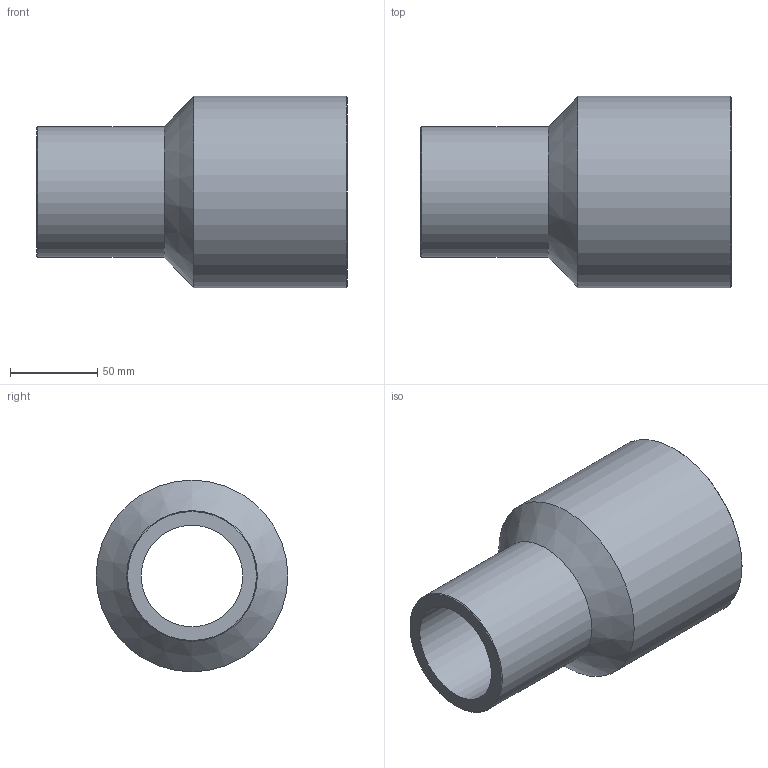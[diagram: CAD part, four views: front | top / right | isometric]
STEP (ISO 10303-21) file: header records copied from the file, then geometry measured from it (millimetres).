
FILE_DESCRIPTION(/* description */ ('Unknown'),/* implementation_level */ '2;1');
FILE_NAME(/* name */ 'RP110075G',/* time_stamp */ '2021-09-16T15:54:46+02:00',/* author */ ('Unknown'),/* organization */ ('Unknown'),/* preprocessor_version */ 'ST-DEVELOPER v16.7',/* originating_system */ 'Solid Edge',/* authorisation */ 'Unknown');
FILE_SCHEMA (('AUTOMOTIVE_DESIGN {1 0 10303 214 3 1 1}'));
Length unit declared in the file: millimetre
Products named in the file (1): RP110075G
Bounding box: 178 x 110 x 110 mm (x, y, z)
Volume: 533155.1 mm3; surface area: 100936.8 mm2
Topology: 1 solids, 1 shells, 10 faces, 19 edges, 11 vertices
Faces by surface type: cylinder 4, cone 4, plane 2
Full cylindrical faces by diameter (mm): 58.2 x1, 75 x1, 85.4 x1, 110 x1
Entity records: 238 total; most frequent: DIRECTION 42, CARTESIAN_POINT 31, AXIS2_PLACEMENT_3D 21, ORIENTED_EDGE 20, EDGE_LOOP 20, FACE_BOUND 20, EDGE_CURVE 10, VERTEX_POINT 10
